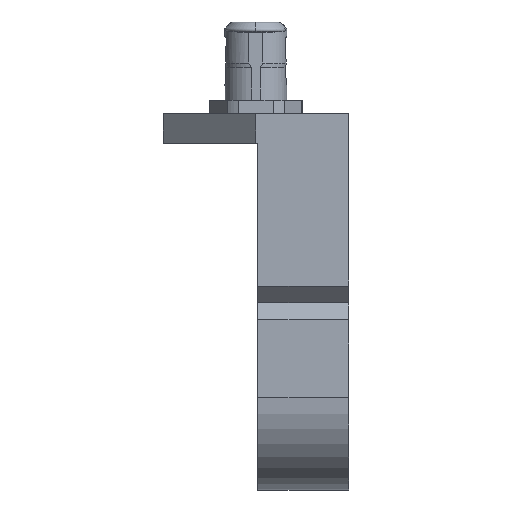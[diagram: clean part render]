
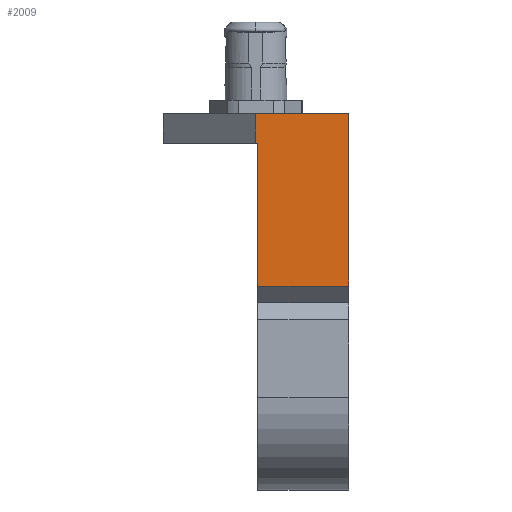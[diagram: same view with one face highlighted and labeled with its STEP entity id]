
A CAD part, left-side view. The second image highlights one B-rep face of the part: STEP entity #2009.
In plain terms, the highlighted planar face has unit normal (-1, 0, 0).
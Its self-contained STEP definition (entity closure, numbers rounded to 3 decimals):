
#118 = LINE ( 'NONE', #2246, #2043 ) ;
#787 = CARTESIAN_POINT ( 'NONE',  ( -18.9, -6.226, -11.569 ) ) ;
#947 = EDGE_CURVE ( 'NONE', #12386, #14011, #2012, .T. ) ;
#1047 = DIRECTION ( 'NONE',  ( 0., -1., 0. ) ) ;
#1077 = EDGE_CURVE ( 'NONE', #7736, #6789, #118, .T. ) ;
#1732 = FACE_OUTER_BOUND ( 'NONE', #10432, .T. ) ;
#1791 = VECTOR ( 'NONE', #2091, 1000. ) ;
#1840 = VECTOR ( 'NONE', #1047, 1000. ) ;
#2009 = ADVANCED_FACE ( 'NONE', ( #1732 ), #5452, .F. ) ;
#2012 = LINE ( 'NONE', #787, #1791 ) ;
#2043 = VECTOR ( 'NONE', #2409, 1000. ) ;
#2091 = DIRECTION ( 'NONE',  ( 0., 1., 0. ) ) ;
#2246 = CARTESIAN_POINT ( 'NONE',  ( -18.9, -6.225, -2. ) ) ;
#2409 = DIRECTION ( 'NONE',  ( 0., -1., 0. ) ) ;
#2420 = VERTEX_POINT ( 'NONE', #11340 ) ;
#2479 = ORIENTED_EDGE ( 'NONE', *, *, #9803, .T. ) ;
#2842 = CARTESIAN_POINT ( 'NONE',  ( -18.9, 0., -2. ) ) ;
#2864 = DIRECTION ( 'NONE',  ( 1., 0., 0. ) ) ;
#2865 = LINE ( 'NONE', #14006, #4431 ) ;
#3579 = ORIENTED_EDGE ( 'NONE', *, *, #4187, .F. ) ;
#3643 = VECTOR ( 'NONE', #5016, 1000. ) ;
#3854 = CARTESIAN_POINT ( 'NONE',  ( -18.9, 0., 0. ) ) ;
#4187 = EDGE_CURVE ( 'NONE', #14011, #6789, #9143, .T. ) ;
#4431 = VECTOR ( 'NONE', #6655, 1000. ) ;
#4738 = ORIENTED_EDGE ( 'NONE', *, *, #947, .F. ) ;
#4942 = EDGE_CURVE ( 'NONE', #14197, #2420, #12430, .T. ) ;
#5016 = DIRECTION ( 'NONE',  ( 0., 0., 1. ) ) ;
#5191 = VECTOR ( 'NONE', #12850, 1000. ) ;
#5452 = PLANE ( 'NONE',  #13400 ) ;
#6655 = DIRECTION ( 'NONE',  ( 0., 0., 1. ) ) ;
#6689 = ORIENTED_EDGE ( 'NONE', *, *, #11097, .F. ) ;
#6789 = VERTEX_POINT ( 'NONE', #12492 ) ;
#7133 = CARTESIAN_POINT ( 'NONE',  ( -18.9, -6.225, -11.569 ) ) ;
#7189 = CARTESIAN_POINT ( 'NONE',  ( -18.9, -2.175, 0. ) ) ;
#7736 = VERTEX_POINT ( 'NONE', #2842 ) ;
#8008 = CARTESIAN_POINT ( 'NONE',  ( -18.9, -0.125, -19.05 ) ) ;
#9031 = ORIENTED_EDGE ( 'NONE', *, *, #1077, .T. ) ;
#9081 = DIRECTION ( 'NONE',  ( 0., 0., -1. ) ) ;
#9143 = LINE ( 'NONE', #8008, #5191 ) ;
#9803 = EDGE_CURVE ( 'NONE', #12386, #2420, #12341, .T. ) ;
#10349 = ORIENTED_EDGE ( 'NONE', *, *, #4942, .F. ) ;
#10432 = EDGE_LOOP ( 'NONE', ( #3579, #4738, #2479, #10349, #6689, #9031 ) ) ;
#11097 = EDGE_CURVE ( 'NONE', #7736, #14197, #2865, .T. ) ;
#11340 = CARTESIAN_POINT ( 'NONE',  ( -18.9, -6.225, 0. ) ) ;
#12341 = LINE ( 'NONE', #13638, #3643 ) ;
#12386 = VERTEX_POINT ( 'NONE', #7133 ) ;
#12430 = LINE ( 'NONE', #7189, #1840 ) ;
#12492 = CARTESIAN_POINT ( 'NONE',  ( -18.9, -0.125, -2. ) ) ;
#12707 = CARTESIAN_POINT ( 'NONE',  ( -18.9, -2.175, 0. ) ) ;
#12850 = DIRECTION ( 'NONE',  ( 0., 0., 1. ) ) ;
#13400 = AXIS2_PLACEMENT_3D ( 'NONE', #12707, #2864, #9081 ) ;
#13638 = CARTESIAN_POINT ( 'NONE',  ( -18.9, -6.225, -19.05 ) ) ;
#14006 = CARTESIAN_POINT ( 'NONE',  ( -18.9, 0., -2. ) ) ;
#14011 = VERTEX_POINT ( 'NONE', #14684 ) ;
#14197 = VERTEX_POINT ( 'NONE', #3854 ) ;
#14684 = CARTESIAN_POINT ( 'NONE',  ( -18.9, -0.125, -11.569 ) ) ;
